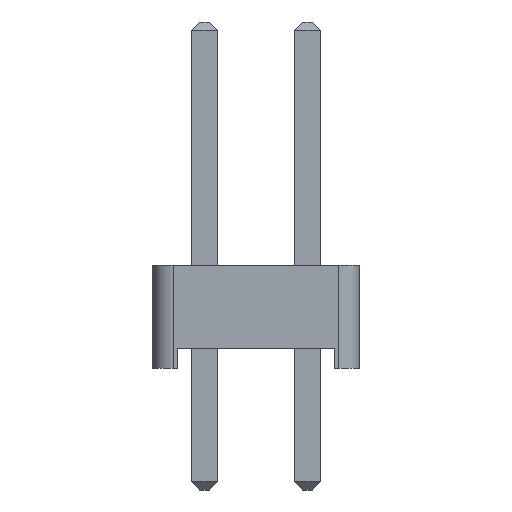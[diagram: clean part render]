
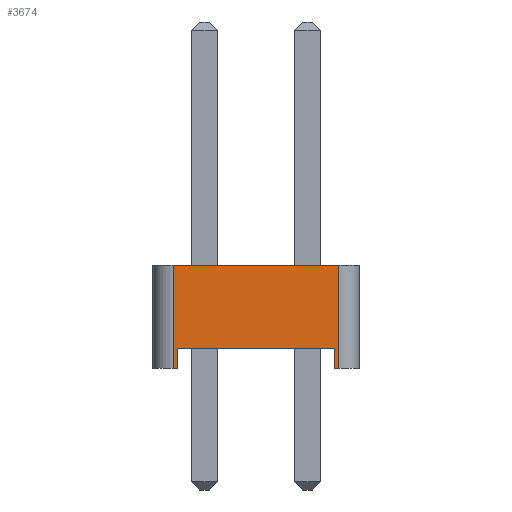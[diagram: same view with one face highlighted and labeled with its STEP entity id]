
A CAD part, left-side view. The second image highlights one B-rep face of the part: STEP entity #3674.
In plain terms, the highlighted planar face has unit normal (-1, 0, 0).
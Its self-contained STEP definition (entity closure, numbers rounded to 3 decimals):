
#3414 = VERTEX_POINT('',#3415);
#3415 = CARTESIAN_POINT('',(-1.27,2.04,0.));
#3423 = PLANE('',#3424);
#3424 = AXIS2_PLACEMENT_3D('',#3425,#3426,#3427);
#3425 = CARTESIAN_POINT('',(0.,0.,0.));
#3426 = DIRECTION('',(-0.,-0.,-1.));
#3427 = DIRECTION('',(-1.,0.,0.));
#3439 = CYLINDRICAL_SURFACE('',#3440,0.5);
#3440 = AXIS2_PLACEMENT_3D('',#3441,#3442,#3443);
#3441 = CARTESIAN_POINT('',(-0.77,2.04,0.));
#3442 = DIRECTION('',(0.,0.,1.));
#3443 = DIRECTION('',(0.,1.,0.));
#3541 = VERTEX_POINT('',#3542);
#3542 = CARTESIAN_POINT('',(-1.27,1.94,0.));
#3556 = PLANE('',#3557);
#3557 = AXIS2_PLACEMENT_3D('',#3558,#3559,#3560);
#3558 = CARTESIAN_POINT('',(1.27,1.94,0.));
#3559 = DIRECTION('',(0.,-1.,0.));
#3560 = DIRECTION('',(-1.,0.,0.));
#3568 = EDGE_CURVE('',#3541,#3414,#3569,.T.);
#3569 = SURFACE_CURVE('',#3570,(#3574,#3581),.PCURVE_S1.);
#3570 = LINE('',#3571,#3572);
#3571 = CARTESIAN_POINT('',(-1.27,-2.54,0.));
#3572 = VECTOR('',#3573,1.);
#3573 = DIRECTION('',(0.,1.,0.));
#3574 = PCURVE('',#3423,#3575);
#3575 = DEFINITIONAL_REPRESENTATION('',(#3576),#3580);
#3576 = LINE('',#3577,#3578);
#3577 = CARTESIAN_POINT('',(1.27,-2.54));
#3578 = VECTOR('',#3579,1.);
#3579 = DIRECTION('',(0.,1.));
#3580 = ( GEOMETRIC_REPRESENTATION_CONTEXT(2) 
PARAMETRIC_REPRESENTATION_CONTEXT() REPRESENTATION_CONTEXT('2D SPACE',''
  ) );
#3581 = PCURVE('',#3582,#3587);
#3582 = PLANE('',#3583);
#3583 = AXIS2_PLACEMENT_3D('',#3584,#3585,#3586);
#3584 = CARTESIAN_POINT('',(-1.27,-2.54,0.));
#3585 = DIRECTION('',(-1.,0.,0.));
#3586 = DIRECTION('',(0.,1.,0.));
#3587 = DEFINITIONAL_REPRESENTATION('',(#3588),#3592);
#3588 = LINE('',#3589,#3590);
#3589 = CARTESIAN_POINT('',(0.,0.));
#3590 = VECTOR('',#3591,1.);
#3591 = DIRECTION('',(1.,0.));
#3592 = ( GEOMETRIC_REPRESENTATION_CONTEXT(2) 
PARAMETRIC_REPRESENTATION_CONTEXT() REPRESENTATION_CONTEXT('2D SPACE',''
  ) );
#3598 = EDGE_CURVE('',#3414,#3599,#3601,.T.);
#3599 = VERTEX_POINT('',#3600);
#3600 = CARTESIAN_POINT('',(-1.27,2.04,2.54));
#3601 = SURFACE_CURVE('',#3602,(#3606,#3613),.PCURVE_S1.);
#3602 = LINE('',#3603,#3604);
#3603 = CARTESIAN_POINT('',(-1.27,2.04,0.));
#3604 = VECTOR('',#3605,1.);
#3605 = DIRECTION('',(0.,0.,1.));
#3606 = PCURVE('',#3439,#3607);
#3607 = DEFINITIONAL_REPRESENTATION('',(#3608),#3612);
#3608 = LINE('',#3609,#3610);
#3609 = CARTESIAN_POINT('',(1.571,0.));
#3610 = VECTOR('',#3611,1.);
#3611 = DIRECTION('',(0.,1.));
#3612 = ( GEOMETRIC_REPRESENTATION_CONTEXT(2) 
PARAMETRIC_REPRESENTATION_CONTEXT() REPRESENTATION_CONTEXT('2D SPACE',''
  ) );
#3613 = PCURVE('',#3582,#3614);
#3614 = DEFINITIONAL_REPRESENTATION('',(#3615),#3619);
#3615 = LINE('',#3616,#3617);
#3616 = CARTESIAN_POINT('',(4.58,0.));
#3617 = VECTOR('',#3618,1.);
#3618 = DIRECTION('',(0.,-1.));
#3619 = ( GEOMETRIC_REPRESENTATION_CONTEXT(2) 
PARAMETRIC_REPRESENTATION_CONTEXT() REPRESENTATION_CONTEXT('2D SPACE',''
  ) );
#3638 = PLANE('',#3639);
#3639 = AXIS2_PLACEMENT_3D('',#3640,#3641,#3642);
#3640 = CARTESIAN_POINT('',(0.,0.,2.54));
#3641 = DIRECTION('',(-0.,-0.,-1.));
#3642 = DIRECTION('',(-1.,0.,0.));
#3674 = ADVANCED_FACE('',(#3675),#3582,.T.);
#3675 = FACE_BOUND('',#3676,.T.);
#3676 = EDGE_LOOP('',(#3677,#3707,#3735,#3756,#3757,#3758,#3781,#3809));
#3677 = ORIENTED_EDGE('',*,*,#3678,.F.);
#3678 = EDGE_CURVE('',#3679,#3681,#3683,.T.);
#3679 = VERTEX_POINT('',#3680);
#3680 = CARTESIAN_POINT('',(-1.27,-2.04,0.));
#3681 = VERTEX_POINT('',#3682);
#3682 = CARTESIAN_POINT('',(-1.27,-1.94,0.));
#3683 = SURFACE_CURVE('',#3684,(#3688,#3695),.PCURVE_S1.);
#3684 = LINE('',#3685,#3686);
#3685 = CARTESIAN_POINT('',(-1.27,-2.54,0.));
#3686 = VECTOR('',#3687,1.);
#3687 = DIRECTION('',(0.,1.,0.));
#3688 = PCURVE('',#3582,#3689);
#3689 = DEFINITIONAL_REPRESENTATION('',(#3690),#3694);
#3690 = LINE('',#3691,#3692);
#3691 = CARTESIAN_POINT('',(0.,0.));
#3692 = VECTOR('',#3693,1.);
#3693 = DIRECTION('',(1.,0.));
#3694 = ( GEOMETRIC_REPRESENTATION_CONTEXT(2) 
PARAMETRIC_REPRESENTATION_CONTEXT() REPRESENTATION_CONTEXT('2D SPACE',''
  ) );
#3695 = PCURVE('',#3696,#3701);
#3696 = PLANE('',#3697);
#3697 = AXIS2_PLACEMENT_3D('',#3698,#3699,#3700);
#3698 = CARTESIAN_POINT('',(0.,0.,0.));
#3699 = DIRECTION('',(-0.,-0.,-1.));
#3700 = DIRECTION('',(-1.,0.,0.));
#3701 = DEFINITIONAL_REPRESENTATION('',(#3702),#3706);
#3702 = LINE('',#3703,#3704);
#3703 = CARTESIAN_POINT('',(1.27,-2.54));
#3704 = VECTOR('',#3705,1.);
#3705 = DIRECTION('',(0.,1.));
#3706 = ( GEOMETRIC_REPRESENTATION_CONTEXT(2) 
PARAMETRIC_REPRESENTATION_CONTEXT() REPRESENTATION_CONTEXT('2D SPACE',''
  ) );
#3707 = ORIENTED_EDGE('',*,*,#3708,.T.);
#3708 = EDGE_CURVE('',#3679,#3709,#3711,.T.);
#3709 = VERTEX_POINT('',#3710);
#3710 = CARTESIAN_POINT('',(-1.27,-2.04,2.54));
#3711 = SURFACE_CURVE('',#3712,(#3716,#3723),.PCURVE_S1.);
#3712 = LINE('',#3713,#3714);
#3713 = CARTESIAN_POINT('',(-1.27,-2.04,0.));
#3714 = VECTOR('',#3715,1.);
#3715 = DIRECTION('',(0.,0.,1.));
#3716 = PCURVE('',#3582,#3717);
#3717 = DEFINITIONAL_REPRESENTATION('',(#3718),#3722);
#3718 = LINE('',#3719,#3720);
#3719 = CARTESIAN_POINT('',(0.5,0.));
#3720 = VECTOR('',#3721,1.);
#3721 = DIRECTION('',(0.,-1.));
#3722 = ( GEOMETRIC_REPRESENTATION_CONTEXT(2) 
PARAMETRIC_REPRESENTATION_CONTEXT() REPRESENTATION_CONTEXT('2D SPACE',''
  ) );
#3723 = PCURVE('',#3724,#3729);
#3724 = CYLINDRICAL_SURFACE('',#3725,0.5);
#3725 = AXIS2_PLACEMENT_3D('',#3726,#3727,#3728);
#3726 = CARTESIAN_POINT('',(-0.77,-2.04,0.));
#3727 = DIRECTION('',(0.,0.,1.));
#3728 = DIRECTION('',(0.,-1.,0.));
#3729 = DEFINITIONAL_REPRESENTATION('',(#3730),#3734);
#3730 = LINE('',#3731,#3732);
#3731 = CARTESIAN_POINT('',(-1.571,0.));
#3732 = VECTOR('',#3733,1.);
#3733 = DIRECTION('',(-0.,1.));
#3734 = ( GEOMETRIC_REPRESENTATION_CONTEXT(2) 
PARAMETRIC_REPRESENTATION_CONTEXT() REPRESENTATION_CONTEXT('2D SPACE',''
  ) );
#3735 = ORIENTED_EDGE('',*,*,#3736,.T.);
#3736 = EDGE_CURVE('',#3709,#3599,#3737,.T.);
#3737 = SURFACE_CURVE('',#3738,(#3742,#3749),.PCURVE_S1.);
#3738 = LINE('',#3739,#3740);
#3739 = CARTESIAN_POINT('',(-1.27,-2.54,2.54));
#3740 = VECTOR('',#3741,1.);
#3741 = DIRECTION('',(0.,1.,0.));
#3742 = PCURVE('',#3582,#3743);
#3743 = DEFINITIONAL_REPRESENTATION('',(#3744),#3748);
#3744 = LINE('',#3745,#3746);
#3745 = CARTESIAN_POINT('',(0.,-2.54));
#3746 = VECTOR('',#3747,1.);
#3747 = DIRECTION('',(1.,0.));
#3748 = ( GEOMETRIC_REPRESENTATION_CONTEXT(2) 
PARAMETRIC_REPRESENTATION_CONTEXT() REPRESENTATION_CONTEXT('2D SPACE',''
  ) );
#3749 = PCURVE('',#3638,#3750);
#3750 = DEFINITIONAL_REPRESENTATION('',(#3751),#3755);
#3751 = LINE('',#3752,#3753);
#3752 = CARTESIAN_POINT('',(1.27,-2.54));
#3753 = VECTOR('',#3754,1.);
#3754 = DIRECTION('',(0.,1.));
#3755 = ( GEOMETRIC_REPRESENTATION_CONTEXT(2) 
PARAMETRIC_REPRESENTATION_CONTEXT() REPRESENTATION_CONTEXT('2D SPACE',''
  ) );
#3756 = ORIENTED_EDGE('',*,*,#3598,.F.);
#3757 = ORIENTED_EDGE('',*,*,#3568,.F.);
#3758 = ORIENTED_EDGE('',*,*,#3759,.T.);
#3759 = EDGE_CURVE('',#3541,#3760,#3762,.T.);
#3760 = VERTEX_POINT('',#3761);
#3761 = CARTESIAN_POINT('',(-1.27,1.94,0.5));
#3762 = SURFACE_CURVE('',#3763,(#3767,#3774),.PCURVE_S1.);
#3763 = LINE('',#3764,#3765);
#3764 = CARTESIAN_POINT('',(-1.27,1.94,0.));
#3765 = VECTOR('',#3766,1.);
#3766 = DIRECTION('',(0.,0.,1.));
#3767 = PCURVE('',#3582,#3768);
#3768 = DEFINITIONAL_REPRESENTATION('',(#3769),#3773);
#3769 = LINE('',#3770,#3771);
#3770 = CARTESIAN_POINT('',(4.48,0.));
#3771 = VECTOR('',#3772,1.);
#3772 = DIRECTION('',(0.,-1.));
#3773 = ( GEOMETRIC_REPRESENTATION_CONTEXT(2) 
PARAMETRIC_REPRESENTATION_CONTEXT() REPRESENTATION_CONTEXT('2D SPACE',''
  ) );
#3774 = PCURVE('',#3556,#3775);
#3775 = DEFINITIONAL_REPRESENTATION('',(#3776),#3780);
#3776 = LINE('',#3777,#3778);
#3777 = CARTESIAN_POINT('',(2.54,0.));
#3778 = VECTOR('',#3779,1.);
#3779 = DIRECTION('',(0.,-1.));
#3780 = ( GEOMETRIC_REPRESENTATION_CONTEXT(2) 
PARAMETRIC_REPRESENTATION_CONTEXT() REPRESENTATION_CONTEXT('2D SPACE',''
  ) );
#3781 = ORIENTED_EDGE('',*,*,#3782,.T.);
#3782 = EDGE_CURVE('',#3760,#3783,#3785,.T.);
#3783 = VERTEX_POINT('',#3784);
#3784 = CARTESIAN_POINT('',(-1.27,-1.94,0.5));
#3785 = SURFACE_CURVE('',#3786,(#3790,#3797),.PCURVE_S1.);
#3786 = LINE('',#3787,#3788);
#3787 = CARTESIAN_POINT('',(-1.27,1.94,0.5));
#3788 = VECTOR('',#3789,1.);
#3789 = DIRECTION('',(0.,-1.,0.));
#3790 = PCURVE('',#3582,#3791);
#3791 = DEFINITIONAL_REPRESENTATION('',(#3792),#3796);
#3792 = LINE('',#3793,#3794);
#3793 = CARTESIAN_POINT('',(4.48,-0.5));
#3794 = VECTOR('',#3795,1.);
#3795 = DIRECTION('',(-1.,0.));
#3796 = ( GEOMETRIC_REPRESENTATION_CONTEXT(2) 
PARAMETRIC_REPRESENTATION_CONTEXT() REPRESENTATION_CONTEXT('2D SPACE',''
  ) );
#3797 = PCURVE('',#3798,#3803);
#3798 = PLANE('',#3799);
#3799 = AXIS2_PLACEMENT_3D('',#3800,#3801,#3802);
#3800 = CARTESIAN_POINT('',(0.,0.,0.5));
#3801 = DIRECTION('',(0.,0.,1.));
#3802 = DIRECTION('',(1.,0.,0.));
#3803 = DEFINITIONAL_REPRESENTATION('',(#3804),#3808);
#3804 = LINE('',#3805,#3806);
#3805 = CARTESIAN_POINT('',(-1.27,1.94));
#3806 = VECTOR('',#3807,1.);
#3807 = DIRECTION('',(0.,-1.));
#3808 = ( GEOMETRIC_REPRESENTATION_CONTEXT(2) 
PARAMETRIC_REPRESENTATION_CONTEXT() REPRESENTATION_CONTEXT('2D SPACE',''
  ) );
#3809 = ORIENTED_EDGE('',*,*,#3810,.F.);
#3810 = EDGE_CURVE('',#3681,#3783,#3811,.T.);
#3811 = SURFACE_CURVE('',#3812,(#3816,#3823),.PCURVE_S1.);
#3812 = LINE('',#3813,#3814);
#3813 = CARTESIAN_POINT('',(-1.27,-1.94,0.));
#3814 = VECTOR('',#3815,1.);
#3815 = DIRECTION('',(0.,0.,1.));
#3816 = PCURVE('',#3582,#3817);
#3817 = DEFINITIONAL_REPRESENTATION('',(#3818),#3822);
#3818 = LINE('',#3819,#3820);
#3819 = CARTESIAN_POINT('',(0.6,0.));
#3820 = VECTOR('',#3821,1.);
#3821 = DIRECTION('',(0.,-1.));
#3822 = ( GEOMETRIC_REPRESENTATION_CONTEXT(2) 
PARAMETRIC_REPRESENTATION_CONTEXT() REPRESENTATION_CONTEXT('2D SPACE',''
  ) );
#3823 = PCURVE('',#3824,#3829);
#3824 = PLANE('',#3825);
#3825 = AXIS2_PLACEMENT_3D('',#3826,#3827,#3828);
#3826 = CARTESIAN_POINT('',(-1.27,-1.94,0.));
#3827 = DIRECTION('',(0.,1.,0.));
#3828 = DIRECTION('',(1.,0.,0.));
#3829 = DEFINITIONAL_REPRESENTATION('',(#3830),#3834);
#3830 = LINE('',#3831,#3832);
#3831 = CARTESIAN_POINT('',(0.,0.));
#3832 = VECTOR('',#3833,1.);
#3833 = DIRECTION('',(0.,-1.));
#3834 = ( GEOMETRIC_REPRESENTATION_CONTEXT(2) 
PARAMETRIC_REPRESENTATION_CONTEXT() REPRESENTATION_CONTEXT('2D SPACE',''
  ) );
